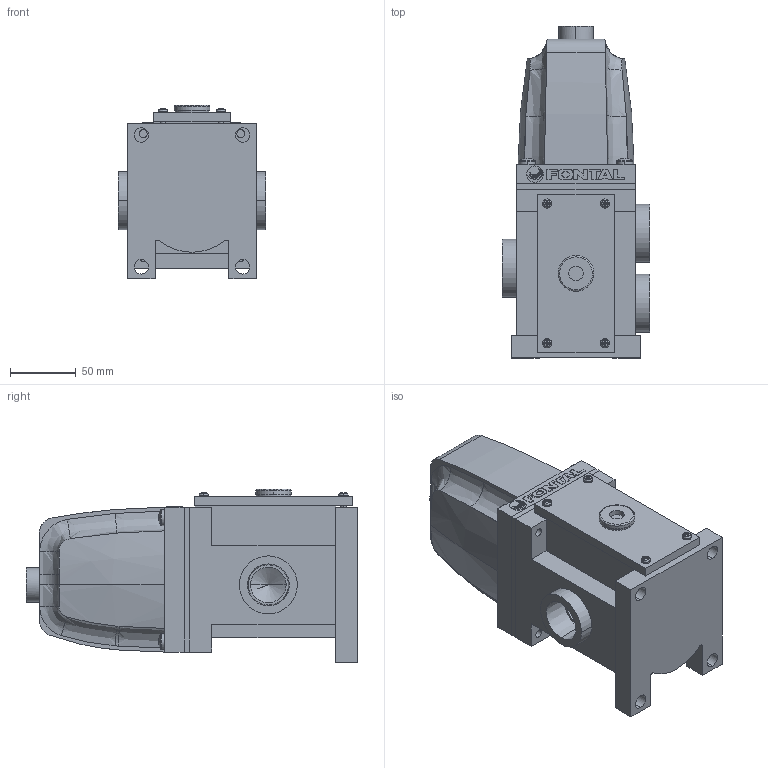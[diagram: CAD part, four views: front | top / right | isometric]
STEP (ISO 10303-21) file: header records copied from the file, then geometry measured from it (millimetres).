
FILE_DESCRIPTION (( 'STEP AP203' ), '1' );
FILE_NAME ('AS2325-08-##.STEP', '2016-03-09T03:50:39', ( 'Sam Lin' ), ( '' ), 'SwSTEP 2.0', 'SolidWorks 2013', '' );
FILE_SCHEMA (( 'CONFIG_CONTROL_DESIGN' ));
Length unit declared in the file: metre
Products named in the file (9): AS2325-2; AS2325-3; AS2325-4; ISO 7045 - M4 x 8; AS2410-4; ISO 7045 - M6 x 20; A15-MARK-2415; AS2325-1=08; AS2325-08-##
Assembly tree (14 placements, depth 2):
  AS2325-08-##
    AS2325-2
    AS2325-3
    AS2325-4
    ISO 7045 - M4 x 8  x4
    AS2410-4
    ISO 7045 - M6 x 20  x4
    A15-MARK-2415
    AS2325-1=08
Bounding box: 112 x 251.9 x 131.5 mm (x, y, z)
Volume: 1942347.5 mm3; surface area: 191474.4 mm2
Topology: 20 solids, 20 shells, 537 faces, 1361 edges, 861 vertices
Faces by surface type: plane 276, cylinder 121, bspline 80, cone 60
Entity records: 13671 total; most frequent: CARTESIAN_POINT 4780, ORIENTED_EDGE 1670, DIRECTION 1515, EDGE_CURVE 835, VERTEX_POINT 543, AXIS2_PLACEMENT_3D 533, VECTOR 449, LINE 449
